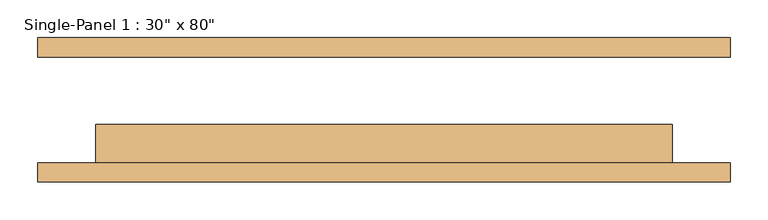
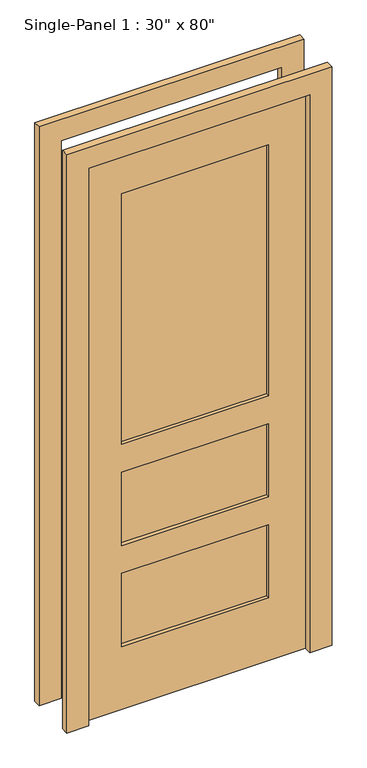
"""IFC4 building model written with IfcOpenShell, lengths in millimetres: door geometry."""

import ifcopenshell
import ifcopenshell.guid

model = None  # the IFC model being written
_history = None  # IfcOwnerHistory: only IFC2X3 demands one
_inside = {}  # id of a spatial element -> (the spatial element, [elements in it])
_under = {}  # id of a project, library or spatial element -> (it, [spatial elements below it])
_declared = {}  # id of a project -> (the project, [libraries it declares])
_typed = {}  # id of a type object -> (the type object, [elements of that type])
_made_of = {}  # id of a material, layer set ... -> (it, [elements and type objects made of it])


def new_model(schema):
    """Start an empty IFC model of exactly this schema.

    Asked for "IFC4X3", IfcOpenShell would pick the latest addendum, in which some entities
    have other attributes; the version numbers below select the first issue.
    IFC2X3 requires an IfcOwnerHistory on every rooted entity: one is made here for all.
    """
    global model, _history
    if schema == "IFC4X3":
        model = ifcopenshell.file(schema_version=(4, 3, 0, 0))
    else:
        model = ifcopenshell.file(schema=schema)
    _inside.clear()
    _under.clear()
    _declared.clear()
    _typed.clear()
    _made_of.clear()
    _history = None
    if model.schema == "IFC2X3":
        org = make("IfcOrganization", Name="unknown")
        user = make(
            "IfcPersonAndOrganization",
            ThePerson=make("IfcPerson", FamilyName="unknown"),
            TheOrganization=org,
        )
        app = make(
            "IfcApplication",
            ApplicationDeveloper=org,
            Version="unknown",
            ApplicationFullName="unknown",
            ApplicationIdentifier="unknown",
        )
        _history = make(
            "IfcOwnerHistory",
            OwningUser=user,
            OwningApplication=app,
            ChangeAction="ADDED",
            CreationDate=0,
        )
    return model


def make(cls, **values):
    """One entity of the class cls with the attributes given. An attribute that is None is left unset."""
    return model.create_entity(
        cls, **{name: value for name, value in values.items() if value is not None}
    )


def rooted(cls, **values):
    """An entity with a GlobalId (a new one), such as an element, a storey or a relation."""
    return make(cls, GlobalId=ifcopenshell.guid.new(), OwnerHistory=_history, **values)


def si_unit(unit_type, name, prefix=None):
    """IfcSIUnit, for example si_unit("LENGTHUNIT", "METRE", prefix="MILLI")."""
    return make("IfcSIUnit", UnitType=unit_type, Prefix=prefix, Name=name)


def assignment(units):
    """IfcUnitAssignment: the units of a project."""
    return None if units is None else make("IfcUnitAssignment", Units=units)


def point(xyz):
    """IfcCartesianPoint."""
    return None if xyz is None else make("IfcCartesianPoint", Coordinates=xyz)


def direction(xyz):
    """IfcDirection."""
    return None if xyz is None else make("IfcDirection", DirectionRatios=xyz)


def frame(location, z_axis=None, x_axis=None):
    """IfcAxis2Placement3D, a coordinate frame: its origin and axes. An axis left out is left unset."""
    return make(
        "IfcAxis2Placement3D",
        Location=point(location),
        Axis=direction(z_axis),
        RefDirection=direction(x_axis),
    )


def origin():
    """The frame at (0, 0, 0) with its axes left unset."""
    return frame((0.0, 0.0, 0.0))


def place(relative_to, where):
    """IfcLocalPlacement: puts the frame where relative to a parent placement (None: the world)."""
    return make(
        "IfcLocalPlacement", PlacementRelTo=relative_to, RelativePlacement=where
    )


def context(
    kind, dimensions, precision=None, world=None, true_north=None, identifier=None
):
    """IfcGeometricRepresentationContext, for example the 3D "Model" context."""
    return make(
        "IfcGeometricRepresentationContext",
        ContextIdentifier=identifier,
        ContextType=kind,
        CoordinateSpaceDimension=dimensions,
        Precision=precision,
        WorldCoordinateSystem=world,
        TrueNorth=true_north,
    )


def project(units=None, contexts=None):
    """IfcProject with its units and contexts."""
    return rooted(
        "IfcProject",
        Name="project",
        RepresentationContexts=contexts,
        UnitsInContext=assignment(units),
    )


def spatial(cls, under=None, at=None, **own):
    """A site, building, storey or space (cls), placed at a placement, below another one or the project."""
    s = rooted(cls, ObjectPlacement=at, **own)
    if under is not None:
        _under.setdefault(under.id(), (under, []))[1].append(s)
    return s


def polyline(points):
    """IfcPolyline through the points."""
    return make("IfcPolyline", Points=[point(p) for p in points])


def outline(outer, holes=None, kind="AREA"):
    """IfcArbitraryClosedProfileDef: a profile drawn as a closed curve; with holes, ...WithVoids."""
    if holes is None:
        return make("IfcArbitraryClosedProfileDef", ProfileType=kind, OuterCurve=outer)
    return make(
        "IfcArbitraryProfileDefWithVoids",
        ProfileType=kind,
        OuterCurve=outer,
        InnerCurves=holes,
    )


def extrude(swept, where, along, depth):
    """IfcExtrudedAreaSolid: the profile swept, set in the frame where, extruded along a direction by depth."""
    return make(
        "IfcExtrudedAreaSolid",
        SweptArea=swept,
        Position=where,
        ExtrudedDirection=direction(along),
        Depth=depth,
    )


def shape(context_of_items, identifier, shape_type, items):
    """IfcShapeRepresentation: the items that make up one representation, for example the "Body"."""
    return make(
        "IfcShapeRepresentation",
        ContextOfItems=context_of_items,
        RepresentationIdentifier=identifier,
        RepresentationType=shape_type,
        Items=items,
    )


def source(mapping_origin, context_of_items, identifier, shape_type, items):
    """IfcRepresentationMap: a shape defined once, which mapped items show again and again."""
    return make(
        "IfcRepresentationMap",
        MappingOrigin=mapping_origin,
        MappedRepresentation=shape(context_of_items, identifier, shape_type, items),
    )


def transform(
    local_origin,
    x_axis=None,
    y_axis=None,
    z_axis=None,
    scale=None,
    scale2=None,
    scale3=None,
    uniform=True,
):
    """IfcCartesianTransformationOperator3D, or its non-uniform kind. x_axis, y_axis, z_axis: its Axis1, 2, 3."""
    if uniform:
        return make(
            "IfcCartesianTransformationOperator3D",
            Axis1=direction(x_axis),
            Axis2=direction(y_axis),
            LocalOrigin=point(local_origin),
            Scale=scale,
            Axis3=direction(z_axis),
        )
    return make(
        "IfcCartesianTransformationOperator3DnonUniform",
        Axis1=direction(x_axis),
        Axis2=direction(y_axis),
        LocalOrigin=point(local_origin),
        Scale=scale,
        Axis3=direction(z_axis),
        Scale2=scale2,
        Scale3=scale3,
    )


def mapped(mapping_source, mapping_target):
    """IfcMappedItem: shows the shape of a source again, moved by a transform."""
    return make(
        "IfcMappedItem", MappingSource=mapping_source, MappingTarget=mapping_target
    )


def made_of(thing, what):
    """Note that an element or type object is made of a material, layer set ...; save() writes the relation."""
    if what is not None:
        _made_of.setdefault(what.id(), (what, []))[1].append(thing)
    return thing


def element(
    cls,
    number,
    at=None,
    inside=None,
    cuts=None,
    type_object=None,
    material=None,
    context=None,
    identifier="Body",
    shape_type=None,
    held_by="IfcProductDefinitionShape",
    body=None,
    shapes=None,
    **own,
):
    """One element of the class cls, such as IfcWall. Its Tag is "e" and its number.

    at: its placement. inside: the storey or other place that contains it. cuts: it is an
    opening in that element (IfcRelVoidsElement). A single representation is given by context,
    identifier, shape_type and body (its items); several are given by shapes. held_by: the class
    of the entity that holds the representations. save() writes the other relations.
    """
    e = rooted(cls, Tag="e%d" % number, ObjectPlacement=at, **own)
    if body is not None:
        shapes = [shape(context, identifier, shape_type, body)]
    if shapes is not None:
        e.Representation = make(held_by, Representations=shapes)
    if inside is not None:
        _inside.setdefault(inside.id(), (inside, []))[1].append(e)
    if cuts is not None:
        rooted(
            "IfcRelVoidsElement", RelatingBuildingElement=cuts, RelatedOpeningElement=e
        )
    if type_object is not None:
        _typed.setdefault(type_object.id(), (type_object, []))[1].append(e)
    return made_of(e, material)


def aggregate(whole, parts):
    """IfcRelAggregates: a whole, such as a stair, and the parts it consists of."""
    return rooted("IfcRelAggregates", RelatingObject=whole, RelatedObjects=parts)


def save(model, path):
    """Write the relations noted so far, then the file.

    IfcRelAggregates (storeys below a building ...), IfcRelContainedInSpatialStructure (elements
    in a storey), IfcRelDefinesByType, IfcRelAssociatesMaterial and IfcRelDeclares: one each for
    every whole, place, type object, material and project.
    """
    for whole, parts in _under.values():
        aggregate(whole, parts)
    for where, things in _inside.values():
        rooted(
            "IfcRelContainedInSpatialStructure",
            RelatedElements=things,
            RelatingStructure=where,
        )
    for kind, things in _typed.values():
        rooted("IfcRelDefinesByType", RelatedObjects=things, RelatingType=kind)
    for what, things in _made_of.values():
        rooted("IfcRelAssociatesMaterial", RelatedObjects=things, RelatingMaterial=what)
    for by, libraries in _declared.values():
        rooted("IfcRelDeclares", RelatingContext=by, RelatedDefinitions=libraries)
    model.write(path)


def door_44d7dd15(model_context):
    return source(origin(), model_context, "Body", "SweptSolid", [
        extrude(outline(polyline([(0.0, -457.2), (0.0, -381.0), (2032.0, -381.0), (2032.0, 381.0), (0.0, 381.0), (0.0, 457.2), (2108.2, 457.2), (2108.2, -457.2), (0.0, -457.2)])), frame((0.0, 70.0, 0.0), z_axis=(0.0, 1.0, 0.0), x_axis=(0.0, 0.0, 1.0)), (0.0, 0.0, 1.0), 25.4),
        extrude(outline(polyline([(0.0, 457.2), (2108.2, 457.2), (2108.2, -457.2), (0.0, -457.2), (0.0, -381.0), (2032.0, -381.0), (2032.0, 381.0), (0.0, 381.0), (0.0, 457.2)])), frame((0.0, -95.4, 0.0), z_axis=(0.0, 1.0, 0.0), x_axis=(0.0, 0.0, 1.0)), (0.0, 0.0, 1.0), 25.4),
        extrude(outline(polyline([(254.0, -31.9), (254.0, -57.3), (-254.0, -57.3), (-254.0, -31.9), (254.0, -31.9)])), frame((0.0, 0.0, 965.2), z_axis=(0.0, 0.0, 1.0), x_axis=(1.0, 0.0, 0.0)), (0.0, 0.0, 1.0), 914.4),
        extrude(outline(polyline([(254.0, -31.9), (254.0, -57.3), (-254.0, -57.3), (-254.0, -31.9), (254.0, -31.9)])), frame((0.0, 0.0, 596.9), z_axis=(0.0, 0.0, 1.0), x_axis=(1.0, 0.0, 0.0)), (0.0, 0.0, 1.0), 266.7),
        extrude(outline(polyline([(254.0, -31.9), (254.0, -57.3), (-254.0, -57.3), (-254.0, -31.9), (254.0, -31.9)])), frame((0.0, 0.0, 228.6), z_axis=(0.0, 0.0, 1.0), x_axis=(1.0, 0.0, 0.0)), (0.0, 0.0, 1.0), 266.7),
        extrude(outline(polyline([(2032.0, 381.0), (2032.0, -381.0), (0.0, -381.0), (0.0, 381.0), (2032.0, 381.0)]), holes=[polyline([(965.2, 254.0), (965.2, -254.0), (1879.6, -254.0), (1879.6, 254.0), (965.2, 254.0)]), polyline([(596.9, 254.0), (596.9, -254.0), (863.6, -254.0), (863.6, 254.0), (596.9, 254.0)]), polyline([(495.3, 254.0), (228.6, 254.0), (228.6, -254.0), (495.3, -254.0), (495.3, 254.0)])]), frame((0.0, -70.0, 0.0), z_axis=(0.0, 1.0, 0.0), x_axis=(0.0, 0.0, 1.0)), (0.0, 0.0, 1.0), 50.8),
    ])


if __name__ == "__main__":
    model = new_model("IFC4")
    model_context = context("Model", 3, world=origin())
    ifc_project = project(units=[si_unit("LENGTHUNIT", "METRE", prefix="MILLI")], contexts=[model_context])
    site = spatial("IfcSite", under=ifc_project)
    building = spatial("IfcBuilding", under=site)
    placement = place(None, origin())
    door_shape = door_44d7dd15(model_context)
    element("IfcDoor", 1, ObjectType="Single-Panel 1 : 30\" x 80\"", at=placement, inside=building, context=model_context, shape_type="MappedRepresentation", body=[
        mapped(door_shape, transform((0.0, 0.0, 0.0), x_axis=(1.0, 0.0, 0.0), y_axis=(0.0, 1.0, 0.0), z_axis=(0.0, 0.0, 1.0))),
    ])
    save(model, "model.ifc")
